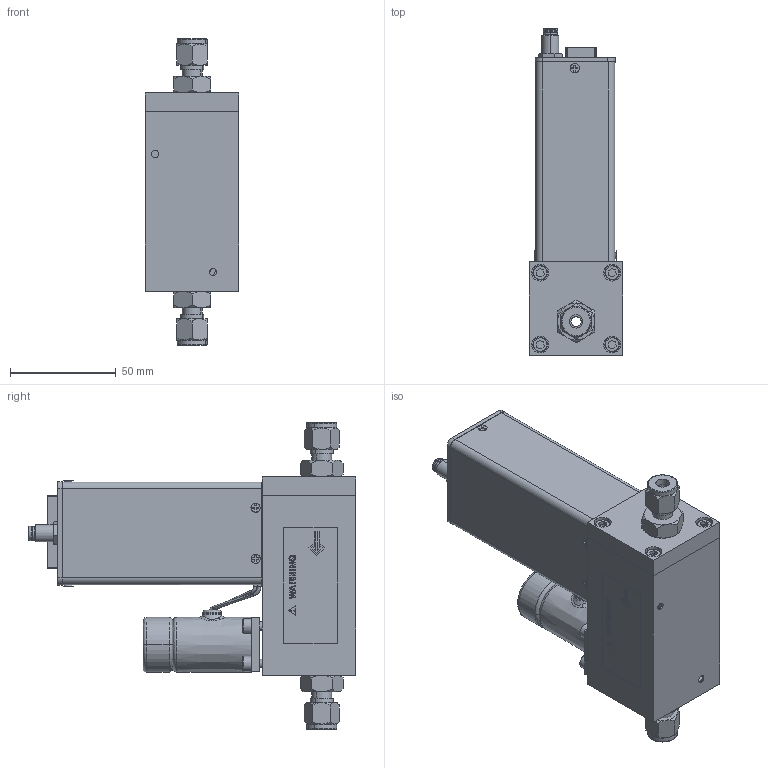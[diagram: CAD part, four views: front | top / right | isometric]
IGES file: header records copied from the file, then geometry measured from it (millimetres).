
Start section: SolidWorks IGES file using analytic representation for surfaces
Global section: file name: G:\Engineering\CAD MODELS FOR SALES\CAD MODEL STORAGE\SLA\SLA5851\CUSTOMER FILES\IGES\SLA5851-8-1B-1-A-REVB.IGS; native system: SolidWorks 2020; preprocessor: SolidWorks 2020; author: CFehr; date: 210510.155040; units: inch
Bounding box: 44.3 x 154.44 x 144.86 mm (x, y, z)
Volume: 72989.4 mm3; surface area: 121857.9 mm2
Topology: 59 solids, 59 shells, 2328 faces, 6167 edges, 3902 vertices
Faces by surface type: plane 1457, revolution 708, bspline 163
